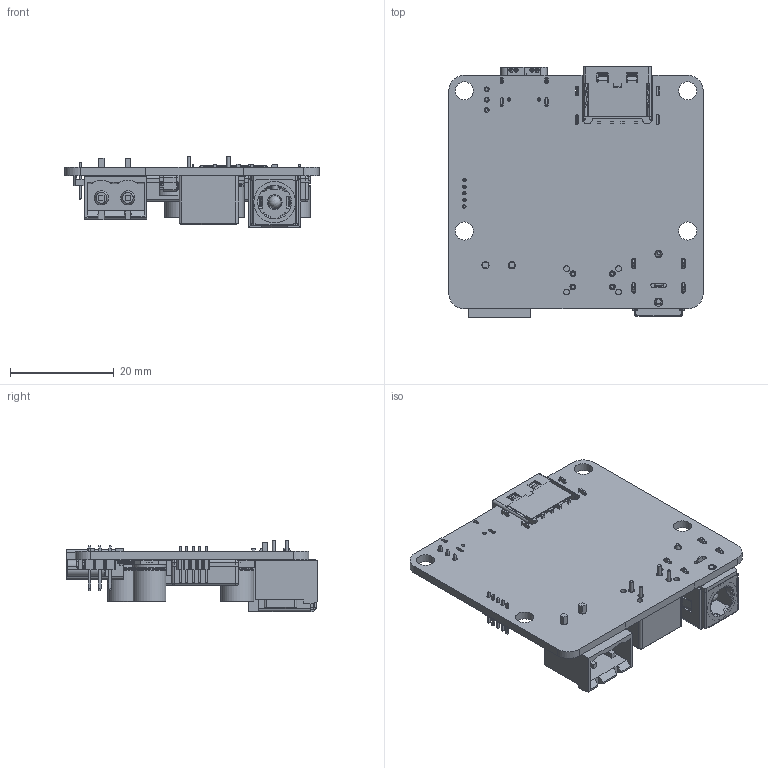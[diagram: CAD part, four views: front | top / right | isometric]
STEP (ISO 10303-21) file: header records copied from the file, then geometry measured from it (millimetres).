
FILE_DESCRIPTION(/* description */ ('Open CASCADE Model'),/* implementation_level */ '2;1');
FILE_NAME(/* name */ 'PD99UL-3D-CAD.step',/* time_stamp */ '2025-05-01T14:40:54-04:00',/* author */ (''),/* organization */ (''),/* preprocessor_version */ 'ST-DEVELOPER v20.1',/* originating_system */ 'Autodesk Translation Framework v14.4.0.0',/* authorisation */ '');
FILE_SCHEMA (('AUTOMOTIVE_DESIGN { 1 0 10303 214 3 1 1 }'));
Products named in the file (50): PCB; Board; Open CASCADE STEP translator 7.5 1.1.1; L1; User Library-ASPI-0530HI; J_IN2; pj-082bh; pj-082bh_1; pj-082bh_2; pj-082bh_3; pj-082bh_4; pj-082bh_5; pj-082bh_6; pj-082bh_7; pj-082bh_8; pj-082bh_9; pj-082bh_10; pj-082bh_11; F1; Fuse Littelfuse 1206L150THWR; D2; DO-214AC(SMA); J1; DS1031-01-1x5P8BV3-1; HousingBody; Pin1Body; Pin2Body; Pin3Body; Pin4Body; Pin5Body; L3; type-c1; User Library-USB - C_m; H1; pin header 1x3 pitch 2mm heigth 5mm; C7; USB1; AF_1.9-Model; C19; L4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
Assembly tree (52 placements, depth 4):
  PCB
    Board
      Open CASCADE STEP translator 7.5 1.1.1
    L1
      User Library-ASPI-0530HI
    J_IN2
      pj-082bh
      pj-082bh_1
      pj-082bh_2
      pj-082bh_3
      pj-082bh_4
      pj-082bh_5
      pj-082bh_6
      pj-082bh_7
      pj-082bh_8
      pj-082bh_9
      pj-082bh_10
      pj-082bh_11
    F1
      Fuse Littelfuse 1206L150THWR
    D2
      DO-214AC(SMA)
    J1
      DS1031-01-1x5P8BV3-1
        HousingBody
        Pin1Body
        Pin2Body
        Pin3Body
        Pin4Body
        Pin5Body
    L3
      7443550x
        Boden
        Boden_1
        Deckel
    type-c1
      User Library-USB - C_m
    H1
      pin header 1x3 pitch 2mm heigth 5mm
    C7
      User Library-CC0607
    USB1
      AF_1.9-Model
    C19
      User Library-CC0607
    L4
      7443550x
        Boden
        Boden_1
        Deckel
    J_IN1
      c-796638-2-c3-3d
    C32
      User Library-CC0607
    CHK1
      CM2545X171B-10--3DModel-STEP-460648
Bounding box: 49 x 48.28 x 13.71 mm (x, y, z)
Volume: 7795.8 mm3; surface area: 14903.9 mm2
Topology: 56 solids, 63 shells, 3968 faces, 10746 edges, 6959 vertices
Faces by surface type: plane 2849, cylinder 723, bspline 242, cone 68, torus 53, sphere 33
Full cylindrical faces by diameter (mm): 0.5 x2, 0.64 x4, 0.65 x7, 0.692 x2, 0.9 x3, 1 x12, 1.1 x8, 1.2 x2, 1.35 x1, 1.4 x3, 1.6 x1, 2 x1, 2.4 x1, 2.8 x2, 2.85 x2, 3.5 x4, 5.2 x2, 5.24 x4, 5.7 x3, 6.3 x6, 6.4 x3, 10.24 x4
Entity records: 129852 total; most frequent: CARTESIAN_POINT 34698, ORIENTED_EDGE 19778, DIRECTION 18049, EDGE_CURVE 9889, LINE 7761, VECTOR 7761, VERTEX_POINT 6427, AXIS2_PLACEMENT_3D 5144
